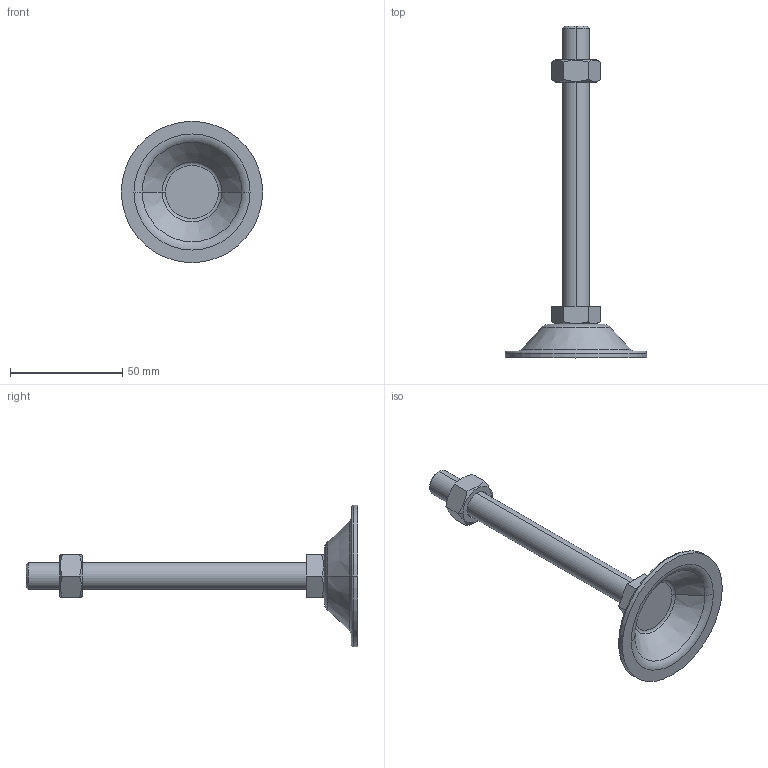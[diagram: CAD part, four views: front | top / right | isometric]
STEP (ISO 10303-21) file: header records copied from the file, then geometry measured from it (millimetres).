
FILE_DESCRIPTION (( 'STEP AP214' ), '1' );
FILE_NAME ('BL63-M12-125.step', '2021-01-06T05:38:02', ( '' ), ( '' ), 'SwSTEP 2.0', 'SolidWorks 2019', '' );
FILE_SCHEMA (( 'AUTOMOTIVE_DESIGN' ));
Length unit declared in the file: millimetre
Products named in the file (1): BL63-M12-125
Bounding box: 63 x 148 x 63 mm (x, y, z)
Volume: 29600.3 mm3; surface area: 15071.7 mm2
Topology: 3 solids, 3 shells, 53 faces, 110 edges, 66 vertices
Faces by surface type: plane 21, cone 16, torus 10, cylinder 6
Entity records: 1618 total; most frequent: CARTESIAN_POINT 428, DIRECTION 252, ORIENTED_EDGE 220, EDGE_CURVE 110, AXIS2_PLACEMENT_3D 106, VERTEX_POINT 66, EDGE_LOOP 58, ADVANCED_FACE 53
